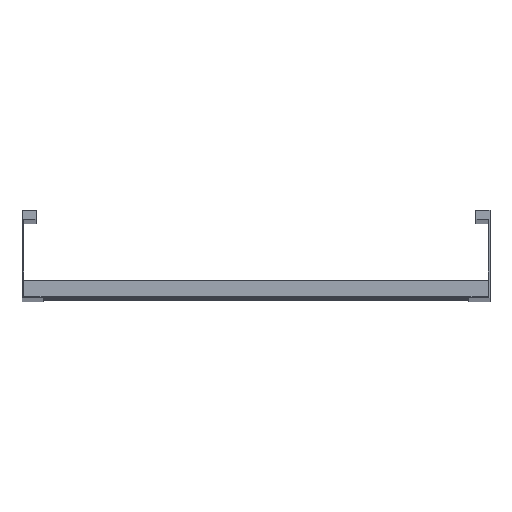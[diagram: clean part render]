
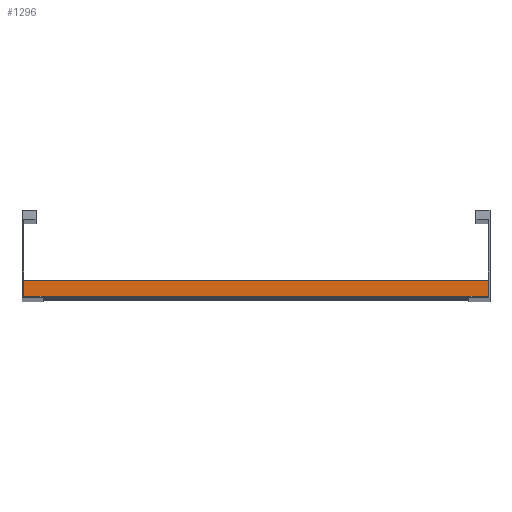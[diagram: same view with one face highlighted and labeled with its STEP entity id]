
A CAD part, top view. The second image highlights one B-rep face of the part: STEP entity #1296.
In plain terms, the highlighted planar face has unit normal (0, 0, 1).
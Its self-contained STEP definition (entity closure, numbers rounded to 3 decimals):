
#66 = PLANE ( 'NONE',  #588 ) ;
#72 = DIRECTION ( 'NONE',  ( 0., -1., 0. ) ) ;
#77 = ORIENTED_EDGE ( 'NONE', *, *, #404, .T. ) ;
#302 = CARTESIAN_POINT ( 'NONE',  ( 298., 20., 20.25 ) ) ;
#360 = CARTESIAN_POINT ( 'NONE',  ( 298., 0., 20.25 ) ) ;
#388 = EDGE_CURVE ( 'NONE', #952, #1064, #1245, .T. ) ;
#404 = EDGE_CURVE ( 'NONE', #1397, #1040, #883, .T. ) ;
#588 = AXIS2_PLACEMENT_3D ( 'NONE', #302, #1506, #1648 ) ;
#634 = VECTOR ( 'NONE', #72, 1000. ) ;
#646 = EDGE_LOOP ( 'NONE', ( #77, #1198, #1096, #1123 ) ) ;
#811 = LINE ( 'NONE', #1063, #1052 ) ;
#883 = LINE ( 'NONE', #1011, #991 ) ;
#927 = DIRECTION ( 'NONE',  ( -1., 0., 0. ) ) ;
#944 = EDGE_CURVE ( 'NONE', #1064, #1040, #1649, .T. ) ;
#952 = VERTEX_POINT ( 'NONE', #1242 ) ;
#987 = DIRECTION ( 'NONE',  ( 0., -1., 0. ) ) ;
#991 = VECTOR ( 'NONE', #987, 1000. ) ;
#1003 = CARTESIAN_POINT ( 'NONE',  ( 298., 20., 20.25 ) ) ;
#1011 = CARTESIAN_POINT ( 'NONE',  ( -298., 20., 20.25 ) ) ;
#1040 = VERTEX_POINT ( 'NONE', #1682 ) ;
#1052 = VECTOR ( 'NONE', #927, 1000. ) ;
#1063 = CARTESIAN_POINT ( 'NONE',  ( 298., 20., 20.25 ) ) ;
#1064 = VERTEX_POINT ( 'NONE', #360 ) ;
#1096 = ORIENTED_EDGE ( 'NONE', *, *, #388, .F. ) ;
#1123 = ORIENTED_EDGE ( 'NONE', *, *, #1168, .T. ) ;
#1168 = EDGE_CURVE ( 'NONE', #952, #1397, #811, .T. ) ;
#1198 = ORIENTED_EDGE ( 'NONE', *, *, #944, .F. ) ;
#1242 = CARTESIAN_POINT ( 'NONE',  ( 298., 20., 20.25 ) ) ;
#1245 = LINE ( 'NONE', #1003, #634 ) ;
#1296 = ADVANCED_FACE ( 'NONE', ( #1633 ), #66, .F. ) ;
#1368 = CARTESIAN_POINT ( 'NONE',  ( 298., 0., 20.25 ) ) ;
#1385 = CARTESIAN_POINT ( 'NONE',  ( -298., 20., 20.25 ) ) ;
#1386 = DIRECTION ( 'NONE',  ( -1., 0., 0. ) ) ;
#1397 = VERTEX_POINT ( 'NONE', #1385 ) ;
#1506 = DIRECTION ( 'NONE',  ( 0., 0., -1. ) ) ;
#1513 = VECTOR ( 'NONE', #1386, 1000. ) ;
#1633 = FACE_OUTER_BOUND ( 'NONE', #646, .T. ) ;
#1648 = DIRECTION ( 'NONE',  ( 0., 1., 0. ) ) ;
#1649 = LINE ( 'NONE', #1368, #1513 ) ;
#1682 = CARTESIAN_POINT ( 'NONE',  ( -298., 0., 20.25 ) ) ;
